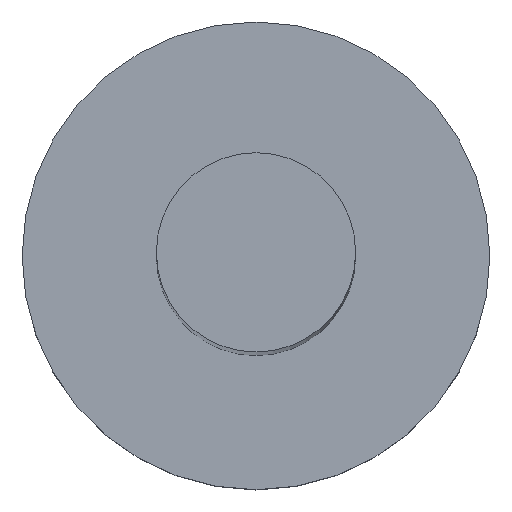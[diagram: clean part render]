
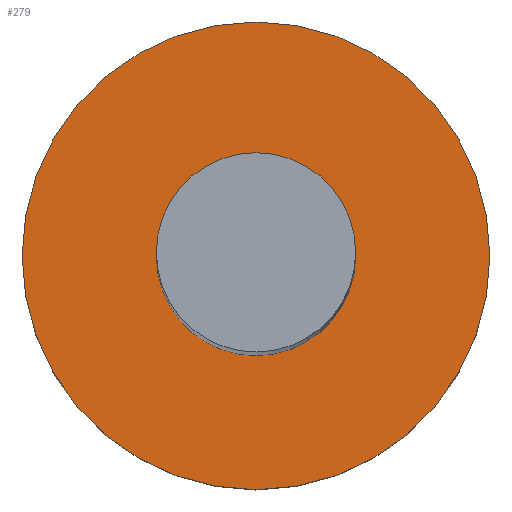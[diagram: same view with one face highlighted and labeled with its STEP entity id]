
A CAD part, top view. The second image highlights one B-rep face of the part: STEP entity #279.
In plain terms, the highlighted planar face has unit normal (0, 0, 1).
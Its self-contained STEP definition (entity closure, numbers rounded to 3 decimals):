
#31 = CYLINDRICAL_SURFACE('',#32,2.3);
#32 = AXIS2_PLACEMENT_3D('',#33,#34,#35);
#33 = CARTESIAN_POINT('',(-30.,43.,4.));
#34 = DIRECTION('',(-0.,-0.,-1.));
#35 = DIRECTION('',(1.,0.,0.));
#56 = VERTEX_POINT('',#57);
#57 = CARTESIAN_POINT('',(-27.7,43.,5.3));
#78 = EDGE_CURVE('',#56,#56,#79,.T.);
#79 = SURFACE_CURVE('',#80,(#85,#92),.PCURVE_S1.);
#80 = CIRCLE('',#81,2.3);
#81 = AXIS2_PLACEMENT_3D('',#82,#83,#84);
#82 = CARTESIAN_POINT('',(-30.,43.,5.3));
#83 = DIRECTION('',(0.,0.,1.));
#84 = DIRECTION('',(1.,0.,-0.));
#85 = PCURVE('',#31,#86);
#86 = DEFINITIONAL_REPRESENTATION('',(#87),#91);
#87 = LINE('',#88,#89);
#88 = CARTESIAN_POINT('',(6.283,-1.3));
#89 = VECTOR('',#90,1.);
#90 = DIRECTION('',(-1.,0.));
#91 = ( GEOMETRIC_REPRESENTATION_CONTEXT(2) 
PARAMETRIC_REPRESENTATION_CONTEXT() REPRESENTATION_CONTEXT('2D SPACE',''
  ) );
#92 = PCURVE('',#93,#98);
#93 = PLANE('',#94);
#94 = AXIS2_PLACEMENT_3D('',#95,#96,#97);
#95 = CARTESIAN_POINT('',(-30.,43.,5.3));
#96 = DIRECTION('',(0.,0.,1.));
#97 = DIRECTION('',(1.,0.,-0.));
#98 = DEFINITIONAL_REPRESENTATION('',(#99),#103);
#99 = CIRCLE('',#100,2.3);
#100 = AXIS2_PLACEMENT_2D('',#101,#102);
#101 = CARTESIAN_POINT('',(0.,0.));
#102 = DIRECTION('',(1.,0.));
#103 = ( GEOMETRIC_REPRESENTATION_CONTEXT(2) 
PARAMETRIC_REPRESENTATION_CONTEXT() REPRESENTATION_CONTEXT('2D SPACE',''
  ) );
#279 = ADVANCED_FACE('',(#280,#283),#93,.T.);
#280 = FACE_BOUND('',#281,.T.);
#281 = EDGE_LOOP('',(#282));
#282 = ORIENTED_EDGE('',*,*,#78,.T.);
#283 = FACE_BOUND('',#284,.T.);
#284 = EDGE_LOOP('',(#285));
#285 = ORIENTED_EDGE('',*,*,#286,.F.);
#286 = EDGE_CURVE('',#287,#287,#289,.T.);
#287 = VERTEX_POINT('',#288);
#288 = CARTESIAN_POINT('',(-29.02,43.,5.3));
#289 = SURFACE_CURVE('',#290,(#295,#302),.PCURVE_S1.);
#290 = CIRCLE('',#291,0.98);
#291 = AXIS2_PLACEMENT_3D('',#292,#293,#294);
#292 = CARTESIAN_POINT('',(-30.,43.,5.3));
#293 = DIRECTION('',(0.,0.,1.));
#294 = DIRECTION('',(1.,0.,-0.));
#295 = PCURVE('',#93,#296);
#296 = DEFINITIONAL_REPRESENTATION('',(#297),#301);
#297 = CIRCLE('',#298,0.98);
#298 = AXIS2_PLACEMENT_2D('',#299,#300);
#299 = CARTESIAN_POINT('',(0.,0.));
#300 = DIRECTION('',(1.,0.));
#301 = ( GEOMETRIC_REPRESENTATION_CONTEXT(2) 
PARAMETRIC_REPRESENTATION_CONTEXT() REPRESENTATION_CONTEXT('2D SPACE',''
  ) );
#302 = PCURVE('',#303,#308);
#303 = CYLINDRICAL_SURFACE('',#304,0.98);
#304 = AXIS2_PLACEMENT_3D('',#305,#306,#307);
#305 = CARTESIAN_POINT('',(-30.,43.,5.3));
#306 = DIRECTION('',(-0.,-0.,-1.));
#307 = DIRECTION('',(1.,0.,0.));
#308 = DEFINITIONAL_REPRESENTATION('',(#309),#313);
#309 = LINE('',#310,#311);
#310 = CARTESIAN_POINT('',(6.283,0.));
#311 = VECTOR('',#312,1.);
#312 = DIRECTION('',(-1.,0.));
#313 = ( GEOMETRIC_REPRESENTATION_CONTEXT(2) 
PARAMETRIC_REPRESENTATION_CONTEXT() REPRESENTATION_CONTEXT('2D SPACE',''
  ) );
